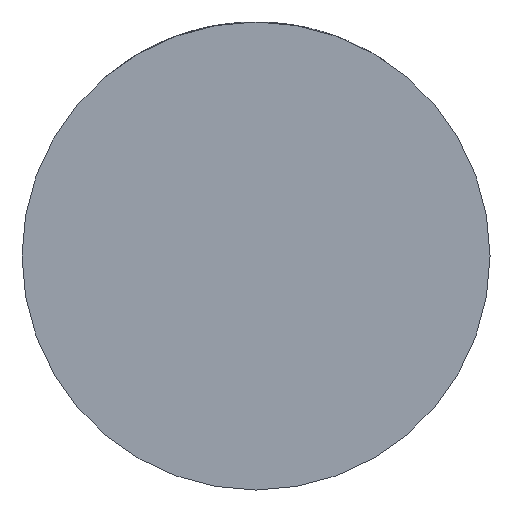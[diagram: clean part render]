
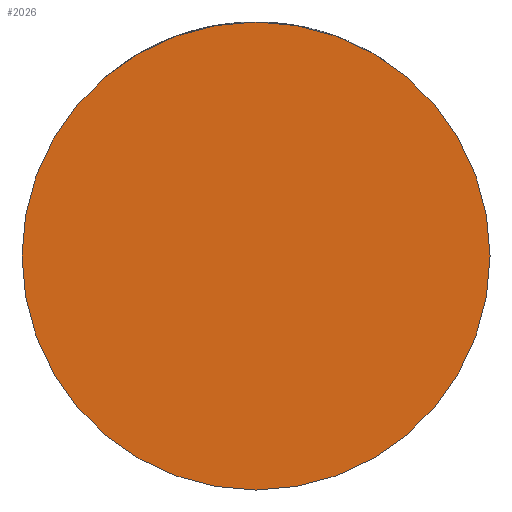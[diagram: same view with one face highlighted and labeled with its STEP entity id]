
A CAD part, front view. The second image highlights one B-rep face of the part: STEP entity #2026.
In plain terms, the highlighted planar face has unit normal (0, -1, 0).
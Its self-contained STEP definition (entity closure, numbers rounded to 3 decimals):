
#129 = DIRECTION ( 'NONE',  ( 1., 0., 0. ) ) ;
#234 = PLANE ( 'NONE',  #2906 ) ;
#592 = CARTESIAN_POINT ( 'NONE',  ( 0., -28., 0. ) ) ;
#713 = CARTESIAN_POINT ( 'NONE',  ( 32., -28., 0. ) ) ;
#814 = EDGE_LOOP ( 'NONE', ( #1478, #3660 ) ) ;
#978 = DIRECTION ( 'NONE',  ( 0., -1., 0. ) ) ;
#1128 = CIRCLE ( 'NONE', #1344, 32. ) ;
#1244 = CARTESIAN_POINT ( 'NONE',  ( 0., -28., 0. ) ) ;
#1344 = AXIS2_PLACEMENT_3D ( 'NONE', #1244, #1840, #129 ) ;
#1478 = ORIENTED_EDGE ( 'NONE', *, *, #2641, .T. ) ;
#1674 = DIRECTION ( 'NONE',  ( 1., 0., 0. ) ) ;
#1840 = DIRECTION ( 'NONE',  ( 0., -1., 0. ) ) ;
#2026 = ADVANCED_FACE ( 'NONE', ( #4002 ), #234, .T. ) ;
#2323 = VERTEX_POINT ( 'NONE', #4088 ) ;
#2539 = VERTEX_POINT ( 'NONE', #713 ) ;
#2641 = EDGE_CURVE ( 'NONE', #2323, #2539, #1128, .T. ) ;
#2726 = EDGE_CURVE ( 'NONE', #2539, #2323, #4450, .T. ) ;
#2906 = AXIS2_PLACEMENT_3D ( 'NONE', #592, #978, #3009 ) ;
#3009 = DIRECTION ( 'NONE',  ( 1., 0., 0. ) ) ;
#3645 = AXIS2_PLACEMENT_3D ( 'NONE', #4119, #4387, #1674 ) ;
#3660 = ORIENTED_EDGE ( 'NONE', *, *, #2726, .T. ) ;
#4002 = FACE_OUTER_BOUND ( 'NONE', #814, .T. ) ;
#4088 = CARTESIAN_POINT ( 'NONE',  ( -32., -28., 0. ) ) ;
#4119 = CARTESIAN_POINT ( 'NONE',  ( 0., -28., 0. ) ) ;
#4387 = DIRECTION ( 'NONE',  ( 0., -1., 0. ) ) ;
#4450 = CIRCLE ( 'NONE', #3645, 32. ) ;
